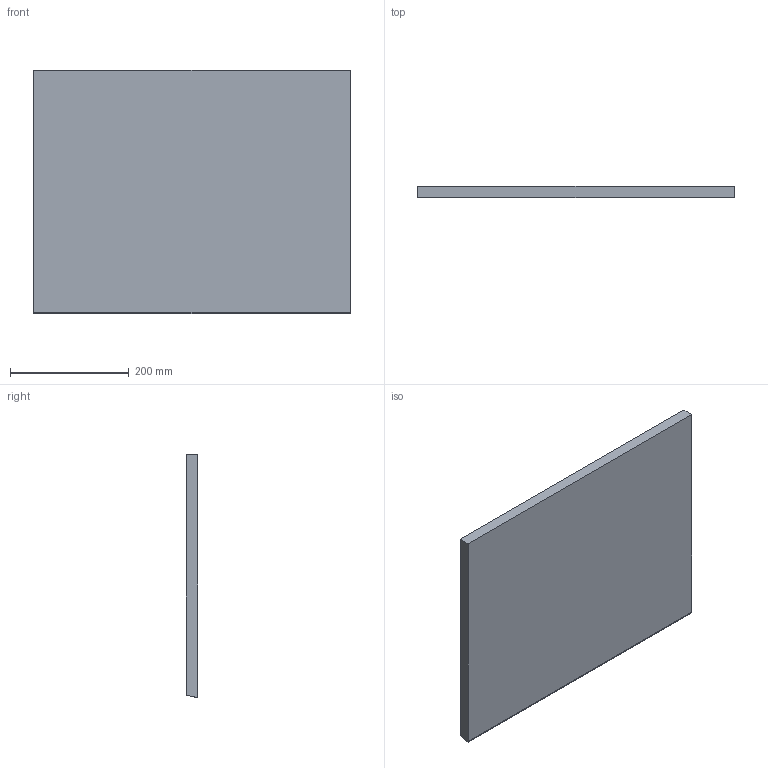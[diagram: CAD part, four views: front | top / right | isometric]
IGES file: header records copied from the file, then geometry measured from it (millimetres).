
Start section:  PTC IGES file: C:\Documents and Settings\Brad\Desktop\IGES\module_flare _panel.igs
Global section: file name: C:\Documents and Settings\Brad\Desktop\IGES\module_flare_panel.igs; native system: Brad by Parametric Technology Corporation; preprocessor: 2003250; author: Unknown; organization: PTC; date: 040521.142625; units: inch
Bounding box: 533.4 x 19.05 x 410.03 mm (x, y, z)
Volume: 4148179 mm3; surface area: 471380.6 mm2
Topology: 1 solids, 1 shells, 7 faces, 15 edges, 10 vertices
Faces by surface type: bspline 7
